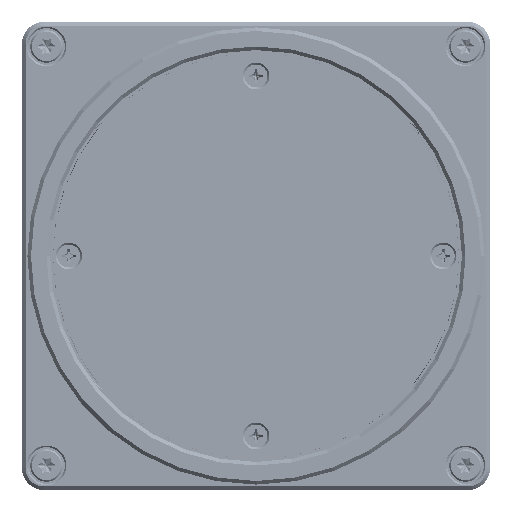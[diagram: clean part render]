
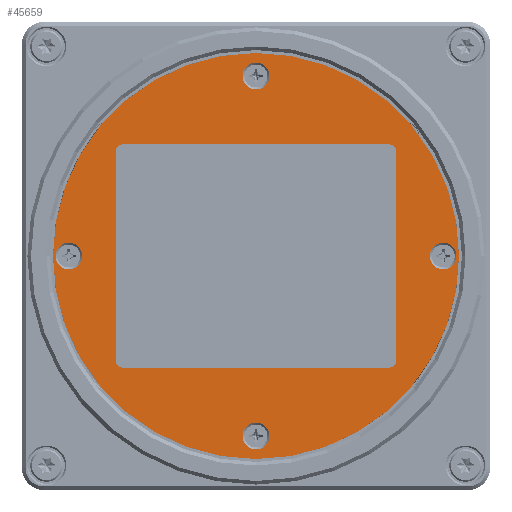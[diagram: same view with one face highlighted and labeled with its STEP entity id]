
A CAD part, front view. The second image highlights one B-rep face of the part: STEP entity #45659.
In plain terms, the highlighted planar face has unit normal (0, -1, 0).
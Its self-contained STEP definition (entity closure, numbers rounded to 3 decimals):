
#11000=CARTESIAN_POINT('',(0.,3.,0.));
#11001=DIRECTION('',(0.,1.,0.));
#11002=DIRECTION('',(1.,0.,0.));
#11003=AXIS2_PLACEMENT_3D('',#11000,#11001,#11002);
#11008=CARTESIAN_POINT('',(0.,3.,0.));
#11009=DIRECTION('',(0.,1.,0.));
#11010=DIRECTION('',(-1.,0.,0.));
#11011=AXIS2_PLACEMENT_3D('',#11008,#11009,#11010);
#11016=CARTESIAN_POINT('',(-18.5,3.,-14.5));
#11017=DIRECTION('',(0.,-1.,0.));
#11018=DIRECTION('',(-1.,0.,0.));
#11019=AXIS2_PLACEMENT_3D('',#11016,#11017,#11018);
#11024=CARTESIAN_POINT('',(18.5,3.,-14.5));
#11025=DIRECTION('',(0.,-1.,0.));
#11026=DIRECTION('',(0.,0.,-1.));
#11027=AXIS2_PLACEMENT_3D('',#11024,#11025,#11026);
#11032=CARTESIAN_POINT('',(18.5,3.,14.5));
#11033=DIRECTION('',(0.,-1.,0.));
#11034=DIRECTION('',(1.,0.,0.));
#11035=AXIS2_PLACEMENT_3D('',#11032,#11033,#11034);
#11040=CARTESIAN_POINT('',(-18.5,3.,14.5));
#11041=DIRECTION('',(0.,-1.,0.));
#11042=DIRECTION('',(0.,0.,1.));
#11043=AXIS2_PLACEMENT_3D('',#11040,#11041,#11042);
#11048=CARTESIAN_POINT('',(-26.,3.,0.));
#11049=DIRECTION('',(0.,-1.,0.));
#11050=DIRECTION('',(-1.,0.,0.));
#11051=AXIS2_PLACEMENT_3D('',#11048,#11049,#11050);
#11056=CARTESIAN_POINT('',(-26.,3.,0.));
#11057=DIRECTION('',(0.,-1.,0.));
#11058=DIRECTION('',(0.,0.,-1.));
#11059=AXIS2_PLACEMENT_3D('',#11056,#11057,#11058);
#11064=CARTESIAN_POINT('',(-26.,3.,0.));
#11065=DIRECTION('',(0.,-1.,0.));
#11066=DIRECTION('',(1.,0.,0.));
#11067=AXIS2_PLACEMENT_3D('',#11064,#11065,#11066);
#11072=CARTESIAN_POINT('',(-26.,3.,0.));
#11073=DIRECTION('',(0.,-1.,0.));
#11074=DIRECTION('',(0.,0.,1.));
#11075=AXIS2_PLACEMENT_3D('',#11072,#11073,#11074);
#11080=CARTESIAN_POINT('',(0.,3.,-25.));
#11081=DIRECTION('',(0.,-1.,0.));
#11082=DIRECTION('',(1.,0.,0.));
#11083=AXIS2_PLACEMENT_3D('',#11080,#11081,#11082);
#11088=CARTESIAN_POINT('',(0.,3.,-25.));
#11089=DIRECTION('',(0.,-1.,0.));
#11090=DIRECTION('',(0.,0.,1.));
#11091=AXIS2_PLACEMENT_3D('',#11088,#11089,#11090);
#11096=CARTESIAN_POINT('',(0.,3.,-25.));
#11097=DIRECTION('',(0.,-1.,0.));
#11098=DIRECTION('',(-1.,0.,0.));
#11099=AXIS2_PLACEMENT_3D('',#11096,#11097,#11098);
#11104=CARTESIAN_POINT('',(0.,3.,-25.));
#11105=DIRECTION('',(0.,-1.,0.));
#11106=DIRECTION('',(0.,0.,-1.));
#11107=AXIS2_PLACEMENT_3D('',#11104,#11105,#11106);
#11112=CARTESIAN_POINT('',(26.,3.,0.));
#11113=DIRECTION('',(0.,-1.,0.));
#11114=DIRECTION('',(-1.,0.,0.));
#11115=AXIS2_PLACEMENT_3D('',#11112,#11113,#11114);
#11120=CARTESIAN_POINT('',(26.,3.,0.));
#11121=DIRECTION('',(0.,-1.,0.));
#11122=DIRECTION('',(0.,0.,-1.));
#11123=AXIS2_PLACEMENT_3D('',#11120,#11121,#11122);
#11128=CARTESIAN_POINT('',(26.,3.,0.));
#11129=DIRECTION('',(0.,-1.,0.));
#11130=DIRECTION('',(1.,0.,0.));
#11131=AXIS2_PLACEMENT_3D('',#11128,#11129,#11130);
#11136=CARTESIAN_POINT('',(26.,3.,0.));
#11137=DIRECTION('',(0.,-1.,0.));
#11138=DIRECTION('',(0.,0.,1.));
#11139=AXIS2_PLACEMENT_3D('',#11136,#11137,#11138);
#11144=CARTESIAN_POINT('',(0.,3.,25.));
#11145=DIRECTION('',(0.,-1.,0.));
#11146=DIRECTION('',(1.,0.,0.));
#11147=AXIS2_PLACEMENT_3D('',#11144,#11145,#11146);
#11152=CARTESIAN_POINT('',(0.,3.,25.));
#11153=DIRECTION('',(0.,-1.,0.));
#11154=DIRECTION('',(0.,0.,1.));
#11155=AXIS2_PLACEMENT_3D('',#11152,#11153,#11154);
#11160=CARTESIAN_POINT('',(0.,3.,25.));
#11161=DIRECTION('',(0.,-1.,0.));
#11162=DIRECTION('',(-1.,0.,0.));
#11163=AXIS2_PLACEMENT_3D('',#11160,#11161,#11162);
#11168=CARTESIAN_POINT('',(0.,3.,25.));
#11169=DIRECTION('',(0.,-1.,0.));
#11170=DIRECTION('',(0.,0.,-1.));
#11171=AXIS2_PLACEMENT_3D('',#11168,#11169,#11170);
#11176=DIRECTION('',(0.,0.,1.));
#11177=VECTOR('',#11176,29.);
#11178=CARTESIAN_POINT('',(-19.5,3.,-14.5));
#11179=LINE('',#11178,#11177);
#11197=DIRECTION('',(1.,0.,0.));
#11198=VECTOR('',#11197,37.);
#11199=CARTESIAN_POINT('',(-18.5,3.,15.5));
#11200=LINE('',#11199,#11198);
#11218=DIRECTION('',(0.,0.,-1.));
#11219=VECTOR('',#11218,29.);
#11220=CARTESIAN_POINT('',(19.5,3.,14.5));
#11221=LINE('',#11220,#11219);
#11239=DIRECTION('',(-1.,0.,0.));
#11240=VECTOR('',#11239,37.);
#11241=CARTESIAN_POINT('',(18.5,3.,-15.5));
#11242=LINE('',#11241,#11240);
#39009=CARTESIAN_POINT('',(-28.2,3.,0.));
#39010=VERTEX_POINT('',#39009);
#39011=CARTESIAN_POINT('',(28.2,3.,0.));
#39012=VERTEX_POINT('',#39011);
#39105=CARTESIAN_POINT('',(-18.5,3.,-15.5));
#39106=VERTEX_POINT('',#39105);
#39107=CARTESIAN_POINT('',(18.5,3.,-15.5));
#39108=VERTEX_POINT('',#39107);
#39109=CARTESIAN_POINT('',(-19.5,3.,-14.5));
#39110=VERTEX_POINT('',#39109);
#39111=CARTESIAN_POINT('',(-19.5,3.,14.5));
#39112=VERTEX_POINT('',#39111);
#39113=CARTESIAN_POINT('',(19.5,3.,-14.5));
#39114=VERTEX_POINT('',#39113);
#39115=CARTESIAN_POINT('',(19.5,3.,14.5));
#39116=VERTEX_POINT('',#39115);
#39117=CARTESIAN_POINT('',(18.5,3.,15.5));
#39118=VERTEX_POINT('',#39117);
#39119=CARTESIAN_POINT('',(-18.5,3.,15.5));
#39120=VERTEX_POINT('',#39119);
#39121=CARTESIAN_POINT('',(-26.,3.,-1.85));
#39122=CARTESIAN_POINT('',(-24.15,3.,0.));
#39123=VERTEX_POINT('',#39121);
#39124=VERTEX_POINT('',#39122);
#39125=CARTESIAN_POINT('',(-27.85,3.,0.));
#39126=VERTEX_POINT('',#39125);
#39127=CARTESIAN_POINT('',(-26.,3.,1.85));
#39128=VERTEX_POINT('',#39127);
#39129=CARTESIAN_POINT('',(0.,3.,-23.15));
#39130=CARTESIAN_POINT('',(-1.85,3.,-25.));
#39131=VERTEX_POINT('',#39129);
#39132=VERTEX_POINT('',#39130);
#39133=CARTESIAN_POINT('',(1.85,3.,-25.));
#39134=VERTEX_POINT('',#39133);
#39135=CARTESIAN_POINT('',(0.,3.,-26.85));
#39136=VERTEX_POINT('',#39135);
#39137=CARTESIAN_POINT('',(26.,3.,-1.85));
#39138=CARTESIAN_POINT('',(27.85,3.,0.));
#39139=VERTEX_POINT('',#39137);
#39140=VERTEX_POINT('',#39138);
#39141=CARTESIAN_POINT('',(24.15,3.,0.));
#39142=VERTEX_POINT('',#39141);
#39143=CARTESIAN_POINT('',(26.,3.,1.85));
#39144=VERTEX_POINT('',#39143);
#39145=CARTESIAN_POINT('',(0.,3.,26.85));
#39146=CARTESIAN_POINT('',(-1.85,3.,25.));
#39147=VERTEX_POINT('',#39145);
#39148=VERTEX_POINT('',#39146);
#39149=CARTESIAN_POINT('',(1.85,3.,25.));
#39150=VERTEX_POINT('',#39149);
#39151=CARTESIAN_POINT('',(0.,3.,23.15));
#39152=VERTEX_POINT('',#39151);
#45592=CARTESIAN_POINT('',(0.,3.,0.));
#45593=DIRECTION('',(0.,1.,0.));
#45594=DIRECTION('',(1.,0.,0.));
#45595=AXIS2_PLACEMENT_3D('',#45592,#45593,#45594);
#45596=PLANE('',#45595);
#45597=ORIENTED_EDGE('',*,*,#44528,.T.);
#45598=ORIENTED_EDGE('',*,*,#45579,.T.);
#45599=EDGE_LOOP('',(#45597,#45598));
#45600=FACE_OUTER_BOUND('',#45599,.F.);
#45602=ORIENTED_EDGE('',*,*,#45601,.F.);
#45604=ORIENTED_EDGE('',*,*,#45603,.T.);
#45606=ORIENTED_EDGE('',*,*,#45605,.F.);
#45608=ORIENTED_EDGE('',*,*,#45607,.T.);
#45610=ORIENTED_EDGE('',*,*,#45609,.F.);
#45612=ORIENTED_EDGE('',*,*,#45611,.T.);
#45614=ORIENTED_EDGE('',*,*,#45613,.F.);
#45616=ORIENTED_EDGE('',*,*,#45615,.T.);
#45617=EDGE_LOOP('',(#45602,#45604,#45606,#45608,#45610,#45612,#45614,#45616));
#45618=FACE_BOUND('',#45617,.F.);
#45620=ORIENTED_EDGE('',*,*,#45619,.T.);
#45622=ORIENTED_EDGE('',*,*,#45621,.T.);
#45624=ORIENTED_EDGE('',*,*,#45623,.T.);
#45626=ORIENTED_EDGE('',*,*,#45625,.T.);
#45627=EDGE_LOOP('',(#45620,#45622,#45624,#45626));
#45628=FACE_BOUND('',#45627,.F.);
#45630=ORIENTED_EDGE('',*,*,#45629,.T.);
#45632=ORIENTED_EDGE('',*,*,#45631,.T.);
#45634=ORIENTED_EDGE('',*,*,#45633,.T.);
#45636=ORIENTED_EDGE('',*,*,#45635,.T.);
#45637=EDGE_LOOP('',(#45630,#45632,#45634,#45636));
#45638=FACE_BOUND('',#45637,.F.);
#45640=ORIENTED_EDGE('',*,*,#45639,.T.);
#45642=ORIENTED_EDGE('',*,*,#45641,.T.);
#45644=ORIENTED_EDGE('',*,*,#45643,.T.);
#45646=ORIENTED_EDGE('',*,*,#45645,.T.);
#45647=EDGE_LOOP('',(#45640,#45642,#45644,#45646));
#45648=FACE_BOUND('',#45647,.F.);
#45650=ORIENTED_EDGE('',*,*,#45649,.T.);
#45652=ORIENTED_EDGE('',*,*,#45651,.T.);
#45654=ORIENTED_EDGE('',*,*,#45653,.T.);
#45656=ORIENTED_EDGE('',*,*,#45655,.T.);
#45657=EDGE_LOOP('',(#45650,#45652,#45654,#45656));
#45658=FACE_BOUND('',#45657,.F.);
#45659=ADVANCED_FACE('',(#45600,#45618,#45628,#45638,#45648,#45658),#45596,.F.);
#11004=CIRCLE('',#11003,28.2);
#11012=CIRCLE('',#11011,28.2);
#11020=CIRCLE('',#11019,1.);
#11028=CIRCLE('',#11027,1.);
#11036=CIRCLE('',#11035,1.);
#11044=CIRCLE('',#11043,1.);
#11052=CIRCLE('',#11051,1.85);
#11060=CIRCLE('',#11059,1.85);
#11068=CIRCLE('',#11067,1.85);
#11076=CIRCLE('',#11075,1.85);
#11084=CIRCLE('',#11083,1.85);
#11092=CIRCLE('',#11091,1.85);
#11100=CIRCLE('',#11099,1.85);
#11108=CIRCLE('',#11107,1.85);
#11116=CIRCLE('',#11115,1.85);
#11124=CIRCLE('',#11123,1.85);
#11132=CIRCLE('',#11131,1.85);
#11140=CIRCLE('',#11139,1.85);
#11148=CIRCLE('',#11147,1.85);
#11156=CIRCLE('',#11155,1.85);
#11164=CIRCLE('',#11163,1.85);
#11172=CIRCLE('',#11171,1.85);
#44528=EDGE_CURVE('',#39012,#39010,#11004,.T.);
#45579=EDGE_CURVE('',#39010,#39012,#11012,.T.);
#45601=EDGE_CURVE('',#39110,#39112,#11179,.T.);
#45603=EDGE_CURVE('',#39110,#39106,#11020,.T.);
#45605=EDGE_CURVE('',#39108,#39106,#11242,.T.);
#45607=EDGE_CURVE('',#39108,#39114,#11028,.T.);
#45609=EDGE_CURVE('',#39116,#39114,#11221,.T.);
#45611=EDGE_CURVE('',#39116,#39118,#11036,.T.);
#45613=EDGE_CURVE('',#39120,#39118,#11200,.T.);
#45615=EDGE_CURVE('',#39120,#39112,#11044,.T.);
#45619=EDGE_CURVE('',#39126,#39123,#11052,.T.);
#45621=EDGE_CURVE('',#39123,#39124,#11060,.T.);
#45623=EDGE_CURVE('',#39124,#39128,#11068,.T.);
#45625=EDGE_CURVE('',#39128,#39126,#11076,.T.);
#45629=EDGE_CURVE('',#39134,#39131,#11084,.T.);
#45631=EDGE_CURVE('',#39131,#39132,#11092,.T.);
#45633=EDGE_CURVE('',#39132,#39136,#11100,.T.);
#45635=EDGE_CURVE('',#39136,#39134,#11108,.T.);
#45639=EDGE_CURVE('',#39142,#39139,#11116,.T.);
#45641=EDGE_CURVE('',#39139,#39140,#11124,.T.);
#45643=EDGE_CURVE('',#39140,#39144,#11132,.T.);
#45645=EDGE_CURVE('',#39144,#39142,#11140,.T.);
#45649=EDGE_CURVE('',#39150,#39147,#11148,.T.);
#45651=EDGE_CURVE('',#39147,#39148,#11156,.T.);
#45653=EDGE_CURVE('',#39148,#39152,#11164,.T.);
#45655=EDGE_CURVE('',#39152,#39150,#11172,.T.);
